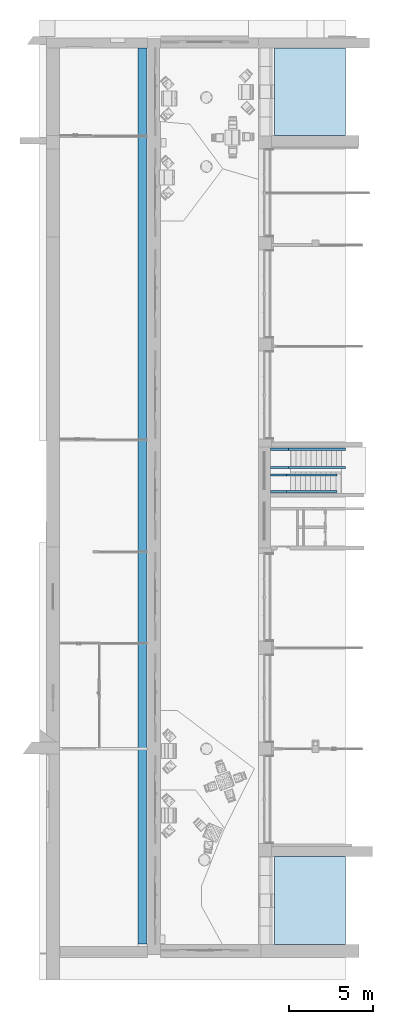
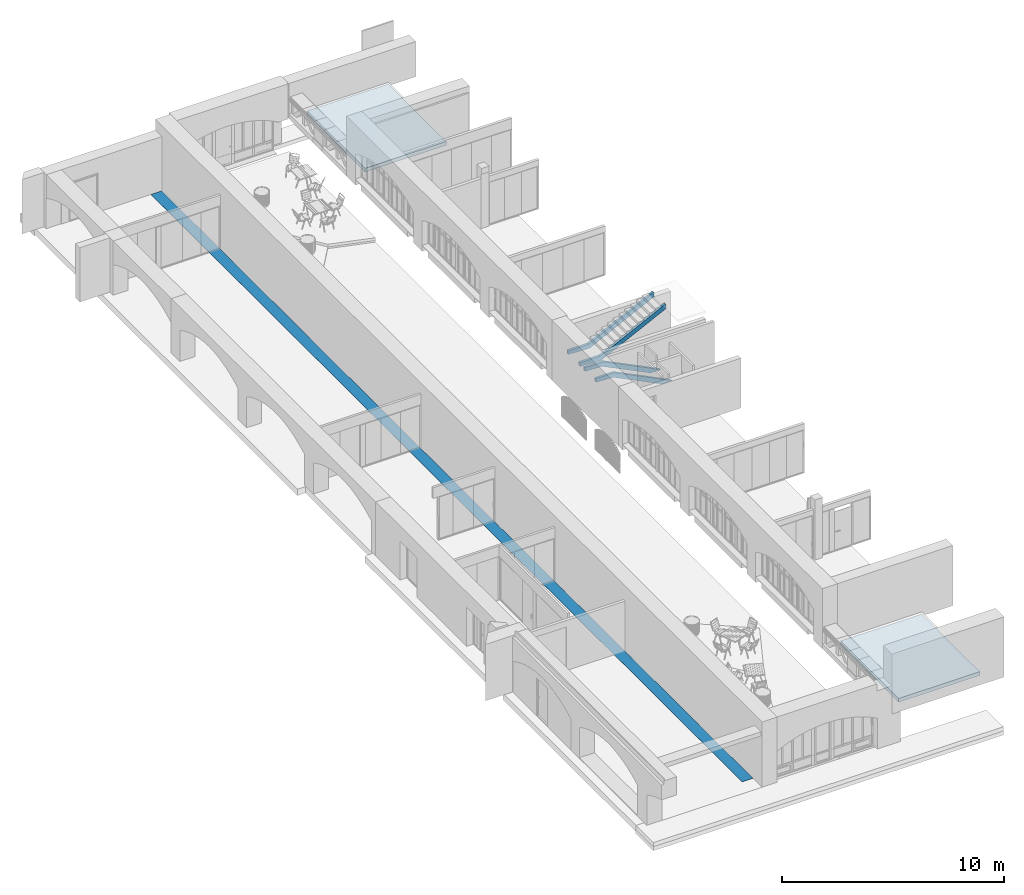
# One storey, part 76 of 88: 2 roofs, 2 stairs, 1 discrete accessory, 2 elements without a shape of their own.
"""IFC2X3 building model written with IfcOpenShell, lengths in millimetres."""

from ifc_helpers import new_model, entity, si_unit, converted_unit, derived_unit, direction, frame, frame_2d, origin, place, context, subcontext, project, spatial, polyline, rectangle, outline, extrude, faceted_brep, source, transform, mapped, material, layer, layer_set, type_object, type_shapes, element, aggregate, save


model = new_model("IFC2X3")

# Units and contexts
model_context = context("Model", 3, precision=0.01, world=origin(), true_north=direction((6.123031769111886e-17, 1.0)))
body_context = subcontext(model_context, "Body", "Model", "MODEL_VIEW")
ifc_project = project(units=[si_unit("LENGTHUNIT", "METRE", prefix="MILLI"), si_unit("AREAUNIT", "SQUARE_METRE"), si_unit("VOLUMEUNIT", "CUBIC_METRE"), converted_unit("PLANEANGLEUNIT", "DEGREE", entity("IfcPlaneAngleMeasure", 0.017453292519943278), si_unit("PLANEANGLEUNIT", "RADIAN"), dimensions=[0, 0, 0, 0, 0, 0, 0]), si_unit("MASSUNIT", "GRAM", prefix="KILO"), derived_unit("MASSDENSITYUNIT", [(si_unit("MASSUNIT", "GRAM", prefix="KILO"), 1), (si_unit("LENGTHUNIT", "METRE"), -3)]), derived_unit("IONCONCENTRATIONUNIT", [(si_unit("MASSUNIT", "GRAM", prefix="KILO"), 1), (si_unit("LENGTHUNIT", "METRE"), -3)]), derived_unit("MOMENTOFINERTIAUNIT", [(si_unit("LENGTHUNIT", "METRE"), 4)]), si_unit("TIMEUNIT", "SECOND"), si_unit("FREQUENCYUNIT", "HERTZ"), si_unit("THERMODYNAMICTEMPERATUREUNIT", "DEGREE_CELSIUS"), derived_unit("THERMALTRANSMITTANCEUNIT", [(si_unit("MASSUNIT", "GRAM", prefix="KILO"), 1), (si_unit("THERMODYNAMICTEMPERATUREUNIT", "KELVIN"), -1), (si_unit("TIMEUNIT", "SECOND"), -3)]), derived_unit("THERMALCONDUCTANCEUNIT", [(si_unit("MASSUNIT", "GRAM", prefix="KILO"), 1), (si_unit("THERMODYNAMICTEMPERATUREUNIT", "KELVIN"), -1), (si_unit("TIMEUNIT", "SECOND"), -3), (si_unit("LENGTHUNIT", "METRE"), 1)]), derived_unit("VOLUMETRICFLOWRATEUNIT", [(si_unit("LENGTHUNIT", "METRE", prefix="DECI"), 3), (si_unit("TIMEUNIT", "SECOND"), -1)]), derived_unit("MASSFLOWRATEUNIT", [(si_unit("MASSUNIT", "GRAM", prefix="KILO"), 1), (si_unit("TIMEUNIT", "SECOND"), -1)]), derived_unit("ROTATIONALFREQUENCYUNIT", [(si_unit("TIMEUNIT", "SECOND"), -1)]), si_unit("ELECTRICCURRENTUNIT", "AMPERE"), si_unit("ELECTRICVOLTAGEUNIT", "VOLT"), si_unit("POWERUNIT", "WATT"), si_unit("FORCEUNIT", "NEWTON", prefix="KILO"), si_unit("ILLUMINANCEUNIT", "LUX"), si_unit("LUMINOUSFLUXUNIT", "LUMEN"), si_unit("LUMINOUSINTENSITYUNIT", "CANDELA"), si_unit("ENERGYUNIT", "JOULE"), derived_unit("USERDEFINED", [(si_unit("MASSUNIT", "GRAM", prefix="KILO"), -1), (si_unit("LENGTHUNIT", "METRE"), -2), (si_unit("TIMEUNIT", "SECOND"), 3), (si_unit("LUMINOUSFLUXUNIT", "LUMEN"), 1)]), derived_unit("USERDEFINED", [(si_unit("MASSUNIT", "GRAM", prefix="KILO"), 1), (si_unit("TIMEUNIT", "SECOND"), -3), (si_unit("LENGTHUNIT", "METRE"), 3), (si_unit("ELECTRICCURRENTUNIT", "AMPERE"), -2)]), derived_unit("SOUNDPOWERUNIT", [(si_unit("MASSUNIT", "GRAM", prefix="KILO"), 1), (si_unit("TIMEUNIT", "SECOND"), -3), (si_unit("LENGTHUNIT", "METRE"), 2)]), derived_unit("SOUNDPRESSUREUNIT", [(si_unit("MASSUNIT", "GRAM", prefix="KILO"), 1), (si_unit("LENGTHUNIT", "METRE"), -1), (si_unit("TIMEUNIT", "SECOND"), -2)]), derived_unit("LINEARVELOCITYUNIT", [(si_unit("LENGTHUNIT", "METRE"), 1), (si_unit("TIMEUNIT", "SECOND"), -1)]), si_unit("PRESSUREUNIT", "PASCAL"), derived_unit("USERDEFINED", [(si_unit("MASSUNIT", "GRAM", prefix="KILO"), 1), (si_unit("LENGTHUNIT", "METRE"), -2), (si_unit("TIMEUNIT", "SECOND"), -2)]), derived_unit("LINEARFORCEUNIT", [(si_unit("MASSUNIT", "GRAM", prefix="KILO"), 1), (si_unit("TIMEUNIT", "SECOND"), -2)]), derived_unit("PLANARFORCEUNIT", [(si_unit("MASSUNIT", "GRAM", prefix="KILO"), 1), (si_unit("LENGTHUNIT", "METRE"), -1), (si_unit("TIMEUNIT", "SECOND"), -2)]), derived_unit("SPECIFICHEATCAPACITYUNIT", [(si_unit("THERMODYNAMICTEMPERATUREUNIT", "KELVIN"), -1), (si_unit("LENGTHUNIT", "METRE"), 2), (si_unit("TIMEUNIT", "SECOND"), -2)]), derived_unit("HEATFLUXDENSITYUNIT", [(si_unit("MASSUNIT", "GRAM", prefix="KILO"), 1), (si_unit("TIMEUNIT", "SECOND"), -3)]), derived_unit("HEATINGVALUEUNIT", [(si_unit("LENGTHUNIT", "METRE"), 2), (si_unit("TIMEUNIT", "SECOND"), -2)]), derived_unit("VAPORPERMEABILITYUNIT", [(si_unit("LENGTHUNIT", "METRE"), -1), (si_unit("TIMEUNIT", "SECOND"), 1)]), derived_unit("DYNAMICVISCOSITYUNIT", [(si_unit("MASSUNIT", "GRAM", prefix="KILO"), 1), (si_unit("TIMEUNIT", "SECOND"), -1), (si_unit("LENGTHUNIT", "METRE"), -1)]), derived_unit("THERMALEXPANSIONCOEFFICIENTUNIT", [(si_unit("THERMODYNAMICTEMPERATUREUNIT", "KELVIN"), -1)]), derived_unit("MODULUSOFELASTICITYUNIT", [(si_unit("MASSUNIT", "GRAM", prefix="KILO"), 1), (si_unit("LENGTHUNIT", "METRE"), -1), (si_unit("TIMEUNIT", "SECOND"), -2)]), derived_unit("ISOTHERMALMOISTURECAPACITYUNIT", [(si_unit("MASSUNIT", "GRAM", prefix="KILO"), -1), (si_unit("LENGTHUNIT", "METRE"), 3)]), derived_unit("MOISTUREDIFFUSIVITYUNIT", [(si_unit("TIMEUNIT", "SECOND"), -1), (si_unit("LENGTHUNIT", "METRE"), 2)]), derived_unit("MASSPERLENGTHUNIT", [(si_unit("MASSUNIT", "GRAM", prefix="KILO"), 1), (si_unit("LENGTHUNIT", "METRE"), -1)]), derived_unit("THERMALRESISTANCEUNIT", [(si_unit("MASSUNIT", "GRAM", prefix="KILO"), -1), (si_unit("TIMEUNIT", "SECOND"), 3), (si_unit("THERMODYNAMICTEMPERATUREUNIT", "KELVIN"), 1)]), derived_unit("ACCELERATIONUNIT", [(si_unit("LENGTHUNIT", "METRE"), 1), (si_unit("TIMEUNIT", "SECOND"), -2)]), derived_unit("ANGULARVELOCITYUNIT", [(si_unit("TIMEUNIT", "SECOND"), -1), (si_unit("PLANEANGLEUNIT", "RADIAN"), 1)]), derived_unit("LINEARSTIFFNESSUNIT", [(si_unit("MASSUNIT", "GRAM", prefix="KILO"), 1), (si_unit("TIMEUNIT", "SECOND"), -2)]), derived_unit("WARPINGCONSTANTUNIT", [(si_unit("LENGTHUNIT", "METRE"), 6)]), derived_unit("LINEARMOMENTUNIT", [(si_unit("MASSUNIT", "GRAM", prefix="KILO"), 1), (si_unit("LENGTHUNIT", "METRE"), 1), (si_unit("TIMEUNIT", "SECOND"), -2)]), derived_unit("TORQUEUNIT", [(si_unit("MASSUNIT", "GRAM", prefix="KILO"), 1), (si_unit("LENGTHUNIT", "METRE"), 2), (si_unit("TIMEUNIT", "SECOND"), -2)])], contexts=[model_context])

# Site, building, storey
site_placement = place(None, origin())
site = spatial("IfcSite", under=ifc_project, at=site_placement, Name="Default", CompositionType="ELEMENT")
building_placement = place(site_placement, origin())
building = spatial("IfcBuilding", under=site, at=building_placement, Name="Eesti Rahvusraamatukogu hoone renoveerimise projekteerimistööd", CompositionType="ELEMENT")
storey_placement = place(building_placement, origin())
storey = spatial("IfcBuildingStorey", under=building, at=storey_placement, Name="1. korrus", CompositionType="ELEMENT", Elevation=0.0)

# Stairs
stair_1_placement = place(storey_placement, origin())
stair_1 = element("IfcStair", 1, at=stair_1_placement, inside=storey, Name="trepitalaˇ74:trepitalaˇ1", ObjectType="trepitalaˇ74:trepitalaˇ1", ShapeType="NOTDEFINED")
ifc_material_1 = material(Name="<Unnamed>")
stair_2_placement = place(stair_1_placement, origin())
stair_2 = element("IfcStair", 2, at=stair_2_placement, material=ifc_material_1, Name="trepitalaˇ74:trepitalaˇ1", ObjectType="trepitalaˇ74:trepitalaˇ1", ShapeType="NOTDEFINED", context=body_context, shape_type="SweptSolid", body=[
    extrude(outline(polyline([(-2413.4013701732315, -914.4444444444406), (-1871.915806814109, -914.4444444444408), (639.3201482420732, 327.22222222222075), (1531.384592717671, 367.2222222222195), (1531.3845927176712, 567.2222222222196), (583.2278433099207, 567.2222222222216), (-2413.4013701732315, -914.4444444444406)])), frame((-34528.61540728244, 27595.0407417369, 2564.4444444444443), z_axis=(0.0, 1.0, 0.0), x_axis=(-1.0, 0.0, 0.0)), (0.0, 0.0, 1.0), 129.9999999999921),
    extrude(outline(polyline([(-2413.401370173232, -914.4444444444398), (-1871.9158068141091, -914.4444444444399), (639.3201482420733, 327.2222222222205), (1531.384592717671, 367.2222222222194), (1531.3845927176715, 567.2222222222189), (583.2278433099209, 567.2222222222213), (-2413.401370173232, -914.4444444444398)])), frame((-34528.61540728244, 28585.0, 2564.444444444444), z_axis=(0.0, 1.0, 0.0), x_axis=(-1.0, 0.0, 0.0)), (0.0, 0.0, 1.0), 129.9999999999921),
])
aggregate(stair_1, [stair_2])

stair_3_placement = place(storey_placement, origin())
stair_3 = element("IfcStair", 3, at=stair_3_placement, inside=storey, Name="trepitalaˇ72:trepitalaˇ1", ObjectType="trepitalaˇ72:trepitalaˇ1", ShapeType="NOTDEFINED")
ifc_material_2 = material(Name="ol. olev materjal")
stair_4_placement = place(stair_3_placement, origin())
stair_4 = element("IfcStair", 4, at=stair_4_placement, material=ifc_material_2, Name="trepitalaˇ72:trepitalaˇ1", ObjectType="trepitalaˇ72:trepitalaˇ1", ShapeType="NOTDEFINED", context=body_context, shape_type="SweptSolid", body=[
    extrude(outline(polyline([(-1309.9258732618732, 38.59655365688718), (2454.1508553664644, 38.59655365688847), (2470.589513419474, 46.72455680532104), (2355.941692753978, 278.5965536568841), (-1366.0181781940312, 278.5965536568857), (-2346.691516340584, -250.91435162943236), (-2258.0464937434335, -430.19641980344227), (-1309.9258732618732, 38.59655365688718)])), frame((-33845.189916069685, 30105.0, 3746.857059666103), z_axis=(0.0, 1.0, 0.0), x_axis=(0.8964103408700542, 0.0, 0.44322511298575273)), (0.0, 0.0, 1.0), 129.9999999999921),
    extrude(outline(polyline([(-1309.9258732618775, 38.596553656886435), (2454.1508553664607, 38.596553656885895), (2470.589513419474, 46.724556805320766), (2355.9416927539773, 278.5965536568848), (-1366.0181781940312, 278.59655365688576), (-2346.6915163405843, -250.91435162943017), (-2258.0464937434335, -430.19641980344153), (-1309.9258732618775, 38.596553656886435)])), frame((-33845.189916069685, 29035.0, 3746.857059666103), z_axis=(0.0, 1.0, 0.0), x_axis=(0.896410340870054, 0.0, 0.44322511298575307)), (0.0, 0.0, 1.0), 129.9999999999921),
])
aggregate(stair_3, [stair_4])

# Roofs
ifc_material_3 = material(Name="EST. Betoon. Armeeritud. Kohtvalu")
ifc_layer_1 = layer(ifc_material_3, 50.0)
ifc_material_4 = material(Name="EST. Geotekstiil")
ifc_layer_2 = layer(ifc_material_4, 13.000000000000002)
ifc_material_5 = material(Name="EST. Soojustus. EPS")
ifc_layer_3 = layer(ifc_material_5, 60.0)
ifc_material_6 = material(Name="EST. Soojustus. EPS 100 kaldekiht, PIR Kingspan Therma TP10 110mm")
ifc_layer_4 = layer(ifc_material_6, 50.0)
ifc_material_7 = material(Name="EST. Betoon. Kohtvalu. Tasandus")
ifc_layer_5 = layer(ifc_material_7, 30.0)
ifc_layer_set = layer_set([ifc_layer_1, ifc_layer_2, ifc_layer_3, ifc_layer_4, ifc_layer_5], Name="Basic Roof:VL-08.1 - käidav, rõdud")
roof_1_placement = place(storey_placement, frame((-35827.49999999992, 780.0, 1550.0)))
element("IfcRoof", 5, at=roof_1_placement, inside=storey, material=ifc_layer_set, Name="Basic Roof:VL-08.1 - käidav, rõdud", ObjectType="Basic Roof:VL-08.1 - käidav, rõdud", ShapeType="NOTDEFINED", context=body_context, shape_type="Brep", body=[
    faceted_brep([(0.0, 5220.0, 0.0), (4217.681568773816, 5220.0, 0.0), (4217.681568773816, 0.0, 0.0), (0.0, 0.0, 0.0), (0.0, 5220.0, 203.0), (4217.681568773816, 5220.0, 203.0), (0.0, 0.0, 203.0), (4217.681568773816, 0.0, 203.0), (2437.500000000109, 2560.0, 153.0), (4217.681568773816, 4374.284663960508, 187.10309518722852), (4217.681568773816, 813.9215264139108, 187.1030951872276)], [[[0, 1, 2, 3]], [[1, 0, 4, 5]], [[4, 0, 3, 6]], [[6, 3, 2, 7]], [[4, 6, 8]], [[9, 8, 10]], [[6, 7, 10, 8]], [[4, 8, 9, 5]], [[2, 1, 5, 9, 10, 7]]]),
])
roof_2_placement = place(storey_placement, frame((-35827.50000000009, 48780.0, 1550.0)))
element("IfcRoof", 6, at=roof_2_placement, inside=storey, material=ifc_layer_set, Name="Basic Roof:VL-08.1 - käidav, rõdud", ObjectType="Basic Roof:VL-08.1 - käidav, rõdud", ShapeType="NOTDEFINED", context=body_context, shape_type="Brep", body=[
    faceted_brep([(4217.681568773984, 0.0, 0.0), (0.0, 0.0, 0.0), (0.0, 5210.376279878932, 0.0), (4217.681568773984, 5210.37627987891, 0.0), (0.0, 0.0, 203.0), (4217.681568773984, 0.0, 203.0), (0.0, 5210.376279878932, 203.0), (4217.681568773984, 5210.37627987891, 203.0), (4217.681568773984, 4404.241056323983, 187.49964280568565), (2437.5000000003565, 2610.0, 153.0), (4217.681568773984, 809.118645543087, 187.49964280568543)], [[[0, 1, 2, 3]], [[4, 1, 0, 5]], [[6, 2, 1, 4]], [[3, 2, 6, 7]], [[8, 9, 10]], [[6, 4, 9]], [[10, 9, 4, 5]], [[7, 6, 9, 8]], [[0, 3, 7, 8, 10, 5]]]),
])

# Discrete accessory
ifc_material_8 = material(Name="Viimistlus. Rest.")
discrete_accessory_type = type_object("IfcDiscreteAccessoryType", Name="F-korpuse kanali kate:Süvendi rest 01", material=ifc_material_8)
shared_shape = source(origin(), body_context, "Body", "SweptSolid", [
    extrude(rectangle(XDim=53180.00000000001, YDim=559.9999999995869, at=frame_2d((0.0, 4.348521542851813e-12), x_axis=(1.0, 0.0))), frame((-43660.0, 27400.376279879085, 70.0), z_axis=(0.0, 0.0, 1.0), x_axis=(0.0, 1.0, 0.0)), (0.0, 0.0, 1.0), 19.999999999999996),
])
type_shapes(discrete_accessory_type, [shared_shape])
discrete_accessory_placement = place(storey_placement, frame((0.0, 0.0, -90.0)))
element("IfcDiscreteAccessory", 7, at=discrete_accessory_placement, inside=storey, type_object=discrete_accessory_type, material=ifc_material_8, Name="F-korpuse kanali kate:Süvendi rest 01", ObjectType="F-korpuse kanali kate:Süvendi rest 01", context=body_context, shape_type="MappedRepresentation", body=[
    mapped(shared_shape, transform((0.0, 0.0, 0.0), scale=1.0)),
])

save(model, "model.ifc")
